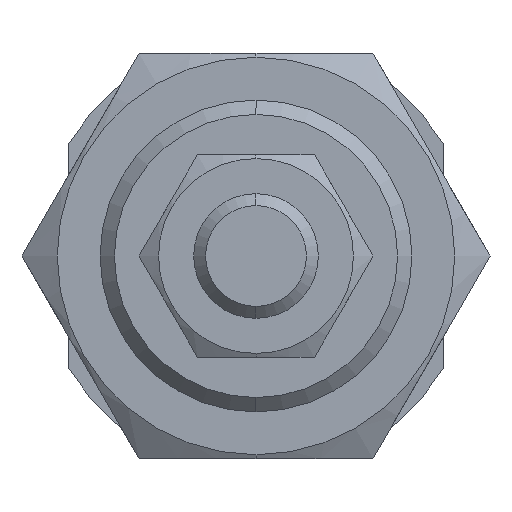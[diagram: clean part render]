
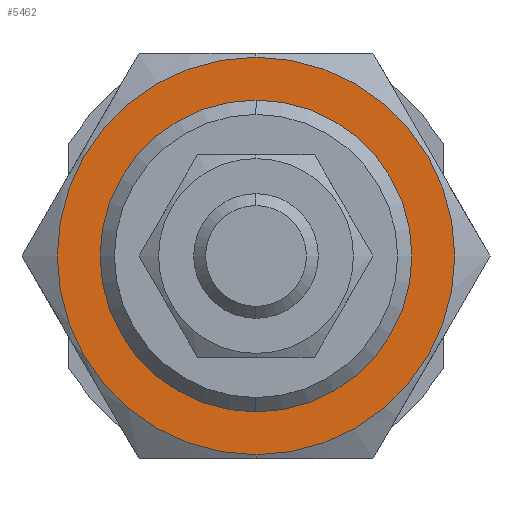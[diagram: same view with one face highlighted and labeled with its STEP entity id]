
A CAD part, left-side view. The second image highlights one B-rep face of the part: STEP entity #5462.
In plain terms, the highlighted planar face has unit normal (-1, 0, 0).
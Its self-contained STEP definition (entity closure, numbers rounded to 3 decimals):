
#114 = DIRECTION ( 'NONE',  ( 1., 0., 0. ) ) ;
#264 = DIRECTION ( 'NONE',  ( 1., 0., 0. ) ) ;
#265 = DIRECTION ( 'NONE',  ( 1., 0., 0. ) ) ;
#275 = EDGE_CURVE ( 'NONE', #4141, #1324, #562, .T. ) ;
#482 = EDGE_LOOP ( 'NONE', ( #724, #3516 ) ) ;
#562 = CIRCLE ( 'NONE', #3740, 12.75 ) ;
#724 = ORIENTED_EDGE ( 'NONE', *, *, #2668, .F. ) ;
#796 = CIRCLE ( 'NONE', #3872, 10. ) ;
#807 = CARTESIAN_POINT ( 'NONE',  ( -11., 0., 0. ) ) ;
#1067 = AXIS2_PLACEMENT_3D ( 'NONE', #1854, #264, #4745 ) ;
#1125 = VERTEX_POINT ( 'NONE', #4231 ) ;
#1263 = AXIS2_PLACEMENT_3D ( 'NONE', #2275, #3934, #3108 ) ;
#1324 = VERTEX_POINT ( 'NONE', #4916 ) ;
#1399 = CARTESIAN_POINT ( 'NONE',  ( -11., 0., 0. ) ) ;
#1719 = ORIENTED_EDGE ( 'NONE', *, *, #3437, .T. ) ;
#1854 = CARTESIAN_POINT ( 'NONE',  ( -11., 0., 0. ) ) ;
#1884 = CARTESIAN_POINT ( 'NONE',  ( -11., 0., 0. ) ) ;
#2014 = CIRCLE ( 'NONE', #1263, 12.75 ) ;
#2275 = CARTESIAN_POINT ( 'NONE',  ( -11., 0., 0. ) ) ;
#2668 = EDGE_CURVE ( 'NONE', #1324, #4141, #2014, .T. ) ;
#2827 = CARTESIAN_POINT ( 'NONE',  ( -11., 0., 10. ) ) ;
#2935 = EDGE_CURVE ( 'NONE', #1125, #3066, #4502, .T. ) ;
#3066 = VERTEX_POINT ( 'NONE', #2827 ) ;
#3108 = DIRECTION ( 'NONE',  ( 0., 0., -1. ) ) ;
#3437 = EDGE_CURVE ( 'NONE', #3066, #1125, #796, .T. ) ;
#3493 = FACE_OUTER_BOUND ( 'NONE', #482, .T. ) ;
#3516 = ORIENTED_EDGE ( 'NONE', *, *, #275, .F. ) ;
#3654 = DIRECTION ( 'NONE',  ( 0., 0., -1. ) ) ;
#3740 = AXIS2_PLACEMENT_3D ( 'NONE', #1884, #114, #4332 ) ;
#3872 = AXIS2_PLACEMENT_3D ( 'NONE', #807, #265, #3654 ) ;
#3934 = DIRECTION ( 'NONE',  ( 1., 0., 0. ) ) ;
#3966 = DIRECTION ( 'NONE',  ( 0., 1., 0. ) ) ;
#4141 = VERTEX_POINT ( 'NONE', #4627 ) ;
#4231 = CARTESIAN_POINT ( 'NONE',  ( -11., 0., -10. ) ) ;
#4332 = DIRECTION ( 'NONE',  ( 0., 0., -1. ) ) ;
#4502 = CIRCLE ( 'NONE', #1067, 10. ) ;
#4577 = EDGE_LOOP ( 'NONE', ( #1719, #5371 ) ) ;
#4627 = CARTESIAN_POINT ( 'NONE',  ( -11., 0., 12.75 ) ) ;
#4745 = DIRECTION ( 'NONE',  ( 0., 0., -1. ) ) ;
#4875 = DIRECTION ( 'NONE',  ( 1., 0., 0. ) ) ;
#4916 = CARTESIAN_POINT ( 'NONE',  ( -11., 0., -12.75 ) ) ;
#5042 = AXIS2_PLACEMENT_3D ( 'NONE', #1399, #4875, #3966 ) ;
#5179 = PLANE ( 'NONE',  #5042 ) ;
#5268 = FACE_BOUND ( 'NONE', #4577, .T. ) ;
#5371 = ORIENTED_EDGE ( 'NONE', *, *, #2935, .T. ) ;
#5462 = ADVANCED_FACE ( 'NONE', ( #3493, #5268 ), #5179, .F. ) ;
